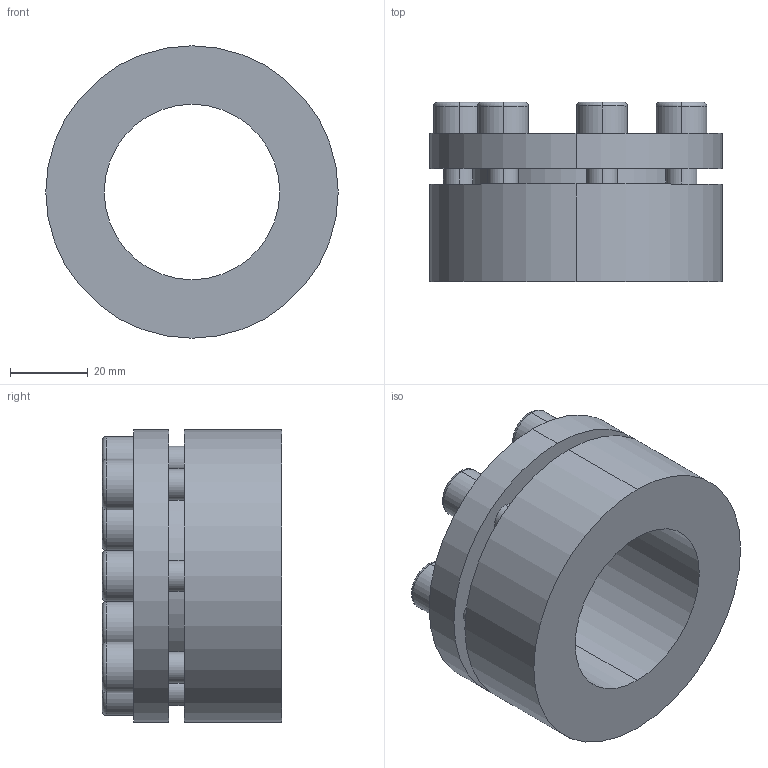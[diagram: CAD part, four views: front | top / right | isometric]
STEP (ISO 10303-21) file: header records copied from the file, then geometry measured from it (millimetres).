
FILE_DESCRIPTION (( 'STEP AP203' ), '1' );
FILE_NAME ('PL-H1 45-75.STEP', '2021-10-23T00:54:29', ( '' ), ( '' ), 'SwSTEP 2.0', 'SolidWorks 2018', '' );
FILE_SCHEMA (( 'CONFIG_CONTROL_DESIGN' ));
Length unit declared in the file: millimetre
Products named in the file (1): PL-H1 45-75
Bounding box: 75 x 46 x 75 mm (x, y, z)
Volume: 106469.7 mm3; surface area: 26680.1 mm2
Topology: 1 solids, 1 shells, 120 faces, 292 edges, 190 vertices
Faces by surface type: plane 60, cylinder 46, torus 14
Entity records: 3625 total; most frequent: DIRECTION 654, CARTESIAN_POINT 603, ORIENTED_EDGE 584, EDGE_CURVE 292, AXIS2_PLACEMENT_3D 241, VERTEX_POINT 190, VECTOR 172, LINE 172
